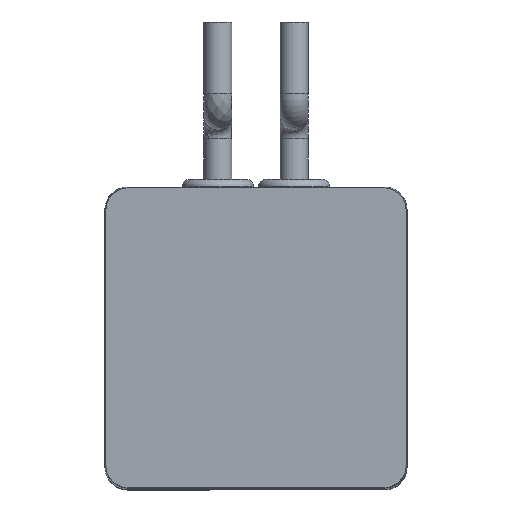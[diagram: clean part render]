
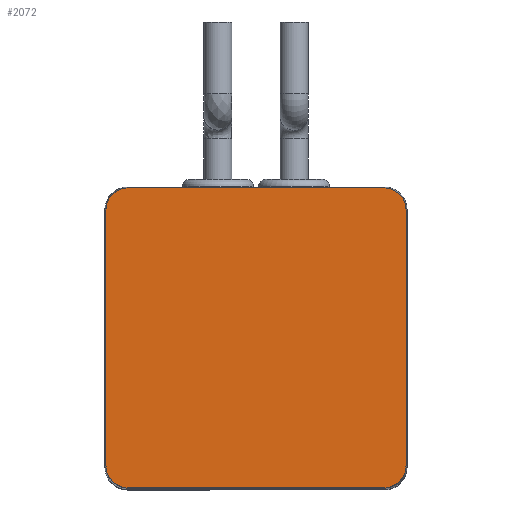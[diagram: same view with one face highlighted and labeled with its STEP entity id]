
A CAD part, top view. The second image highlights one B-rep face of the part: STEP entity #2072.
In plain terms, the highlighted planar face has unit normal (0, 0, 1).
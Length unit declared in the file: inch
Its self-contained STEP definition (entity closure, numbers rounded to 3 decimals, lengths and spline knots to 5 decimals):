
#1228=CARTESIAN_POINT('',(-0.425,1.675,7.195));
#1229=VERTEX_POINT('',#1228);
#1354=CARTESIAN_POINT('',(0.425,1.675,7.195));
#1355=VERTEX_POINT('',#1354);
#1356=CARTESIAN_POINT('',(-0.425,1.675,7.195));
#1357=DIRECTION('',(1.0,0.0,0.0));
#1358=VECTOR('',#1357,0.85);
#1359=LINE('',#1356,#1358);
#1360=EDGE_CURVE('',#1229,#1355,#1359,.T.);
#1554=CARTESIAN_POINT('',(-1.425,1.675,7.195));
#1555=VERTEX_POINT('',#1554);
#1562=CARTESIAN_POINT('',(-1.425,1.675,7.195));
#1563=DIRECTION('',(1.0,0.0,0.0));
#1564=VECTOR('',#1563,1.);
#1565=LINE('',#1562,#1564);
#1566=EDGE_CURVE('',#1555,#1229,#1565,.T.);
#1577=CARTESIAN_POINT('',(1.425,1.675,7.195));
#1578=VERTEX_POINT('',#1577);
#1579=CARTESIAN_POINT('',(0.425,1.675,7.195));
#1580=DIRECTION('',(1.0,0.0,0.0));
#1581=VECTOR('',#1580,1.);
#1582=LINE('',#1579,#1581);
#1583=EDGE_CURVE('',#1355,#1578,#1582,.T.);
#1634=CARTESIAN_POINT('',(1.675,1.425,7.195));
#1635=VERTEX_POINT('',#1634);
#1642=CARTESIAN_POINT('',(1.675,-1.425,7.195));
#1643=VERTEX_POINT('',#1642);
#1644=CARTESIAN_POINT('',(1.675,1.425,7.195));
#1645=DIRECTION('',(0.0,-1.0,0.0));
#1646=VECTOR('',#1645,2.85);
#1647=LINE('',#1644,#1646);
#1648=EDGE_CURVE('',#1635,#1643,#1647,.T.);
#1712=CARTESIAN_POINT('',(1.425,1.425,7.195));
#1713=DIRECTION('',(0.0,0.0,-1.));
#1714=DIRECTION('',(0.707,0.707,0.0));
#1715=AXIS2_PLACEMENT_3D('',#1712,#1713,#1714);
#1716=CIRCLE('',#1715,0.25);
#1717=EDGE_CURVE('',#1578,#1635,#1716,.T.);
#1801=CARTESIAN_POINT('',(-1.675,1.425,7.195));
#1802=VERTEX_POINT('',#1801);
#1809=CARTESIAN_POINT('',(-1.425,1.425,7.195));
#1810=DIRECTION('',(0.0,0.0,-1.));
#1811=DIRECTION('',(-0.707,0.707,0.0));
#1812=AXIS2_PLACEMENT_3D('',#1809,#1810,#1811);
#1813=CIRCLE('',#1812,0.25);
#1814=EDGE_CURVE('',#1802,#1555,#1813,.T.);
#1887=CARTESIAN_POINT('',(1.425,-1.675,7.195));
#1888=VERTEX_POINT('',#1887);
#1895=CARTESIAN_POINT('',(-1.425,-1.675,7.195));
#1896=VERTEX_POINT('',#1895);
#1897=CARTESIAN_POINT('',(1.425,-1.675,7.195));
#1898=DIRECTION('',(-1.0,0.0,0.0));
#1899=VECTOR('',#1898,2.85);
#1900=LINE('',#1897,#1899);
#1901=EDGE_CURVE('',#1888,#1896,#1900,.T.);
#1919=CARTESIAN_POINT('',(1.425,-1.425,7.195));
#1920=DIRECTION('',(0.0,0.0,-1.));
#1921=DIRECTION('',(0.707,-0.707,0.0));
#1922=AXIS2_PLACEMENT_3D('',#1919,#1920,#1921);
#1923=CIRCLE('',#1922,0.25);
#1924=EDGE_CURVE('',#1643,#1888,#1923,.T.);
#2031=CARTESIAN_POINT('',(-1.675,-1.425,7.195));
#2032=VERTEX_POINT('',#2031);
#2039=CARTESIAN_POINT('',(-1.675,-1.425,7.195));
#2040=DIRECTION('',(0.0,1.0,0.0));
#2041=VECTOR('',#2040,2.85);
#2042=LINE('',#2039,#2041);
#2043=EDGE_CURVE('',#2032,#1802,#2042,.T.);
#2049=CARTESIAN_POINT('',(0.,0.,7.195));
#2050=DIRECTION('',(0.0,0.0,1.0));
#2051=DIRECTION('',(1.0,0.0,0.0));
#2052=AXIS2_PLACEMENT_3D('',#2049,#2050,#2051);
#2053=PLANE('',#2052);
#2054=CARTESIAN_POINT('',(-1.425,-1.425,7.195));
#2055=DIRECTION('',(0.0,0.0,-1.));
#2056=DIRECTION('',(-0.707,-0.707,0.0));
#2057=AXIS2_PLACEMENT_3D('',#2054,#2055,#2056);
#2058=CIRCLE('',#2057,0.25);
#2059=EDGE_CURVE('',#1896,#2032,#2058,.T.);
#2060=ORIENTED_EDGE('',*,*,#2059,.F.);
#2061=ORIENTED_EDGE('',*,*,#1901,.F.);
#2062=ORIENTED_EDGE('',*,*,#1924,.F.);
#2063=ORIENTED_EDGE('',*,*,#1648,.F.);
#2064=ORIENTED_EDGE('',*,*,#1717,.F.);
#2065=ORIENTED_EDGE('',*,*,#1583,.F.);
#2066=ORIENTED_EDGE('',*,*,#1360,.F.);
#2067=ORIENTED_EDGE('',*,*,#1566,.F.);
#2068=ORIENTED_EDGE('',*,*,#1814,.F.);
#2069=ORIENTED_EDGE('',*,*,#2043,.F.);
#2070=EDGE_LOOP('',(#2060,#2061,#2062,#2063,#2064,#2065,#2066,#2067,#2068,#2069));
#2071=FACE_OUTER_BOUND('',#2070,.T.);
#2072=ADVANCED_FACE('',(#2071),#2053,.T.);
